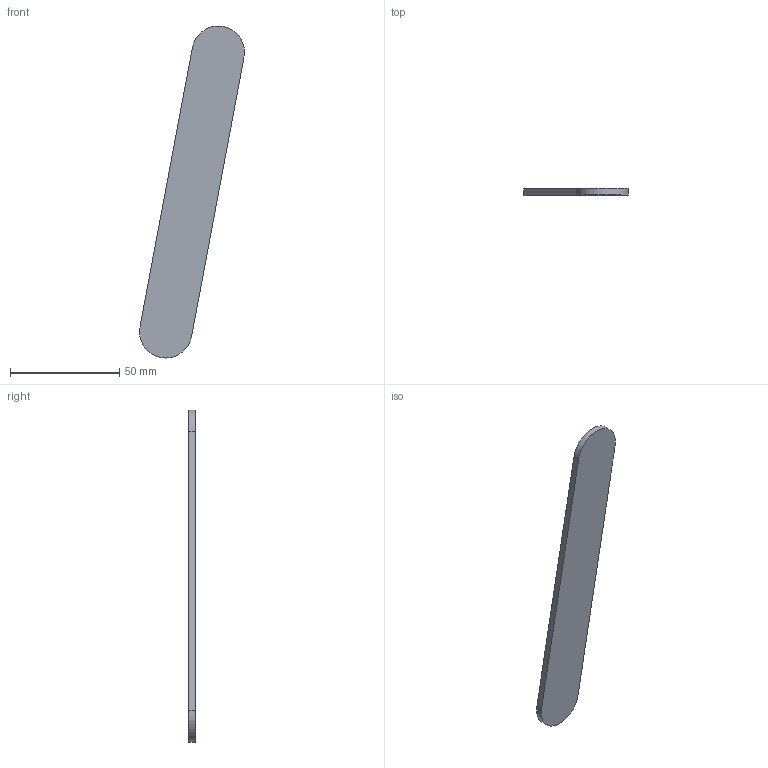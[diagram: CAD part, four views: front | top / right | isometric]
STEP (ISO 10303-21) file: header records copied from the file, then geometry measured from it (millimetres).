
FILE_DESCRIPTION(('Open CASCADE Model'),'2;1');
FILE_NAME('Open CASCADE Shape Model','2026-10-10T15:34:58',('Author'),( 'Open CASCADE'),'Open CASCADE STEP processor 7.9','Open CASCADE 7.9' ,'Unknown');
FILE_SCHEMA(('AUTOMOTIVE_DESIGN { 1 0 10303 214 1 1 1 1 }'));
Length unit declared in the file: millimetre
Products named in the file (1): Open CASCADE STEP translator 7.9 27
Bounding box: 48 x 3 x 152 mm (x, y, z)
Volume: 10733.8 mm3; surface area: 8163.4 mm2
Topology: 1 solids, 1 shells, 6 faces, 12 edges, 8 vertices
Faces by surface type: plane 4, cylinder 2
Entity records: 326 total; most frequent: DIRECTION 54, CARTESIAN_POINT 51, LINE 28, VECTOR 28, ORIENTED_EDGE 24, PCURVE 24, DEFINITIONAL_REPRESENTATION 24, EDGE_CURVE 12
